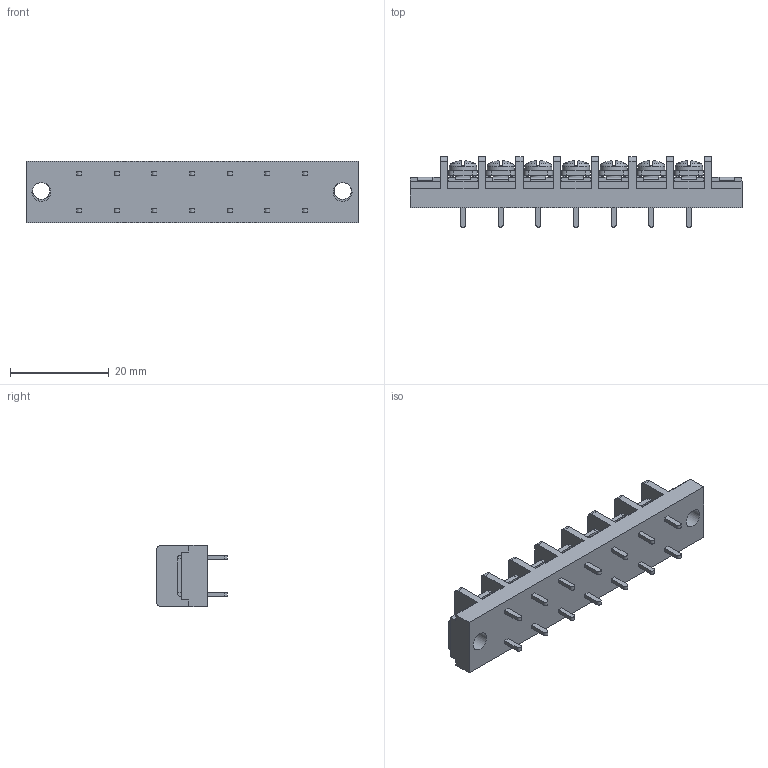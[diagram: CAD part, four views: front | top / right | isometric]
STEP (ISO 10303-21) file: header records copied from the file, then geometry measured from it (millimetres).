
FILE_DESCRIPTION(/* description */ ('Alibre Inc.'),/* implementation_level */ '2;1');
FILE_NAME(/* name */ 'export0',/* time_stamp */ '2015-10-26T18:29:25+09:00',/* author */ (''),/* organization */ (''),/* preprocessor_version */ 'ST-DEVELOPER v14',/* originating_system */ 'Alibre',/* authorisation */ '');
FILE_SCHEMA (('CONFIG_CONTROL_DESIGN'));
Length unit declared in the file: centimetre
Products named in the file (1): ID_1
Bounding box: 67.16 x 14.3 x 12.5 mm (x, y, z)
Volume: 5716.8 mm3; surface area: 5263.3 mm2
Topology: 1 solids, 17 shells, 1143 faces, 3082 edges, 2030 vertices
Faces by surface type: plane 889, bspline 104, cylinder 94, cone 28, torus 14, sphere 14
Full cylindrical faces by diameter (mm): 3 x7, 3.5 x2, 3.8 x2, 5.5 x7
Entity records: 33877 total; most frequent: CARTESIAN_POINT 7366, ORIENTED_EDGE 6064, DIRECTION 4132, EDGE_CURVE 3032, VECTOR 2212, LINE 2212, VERTEX_POINT 2012, AXIS2_PLACEMENT_3D 1362
